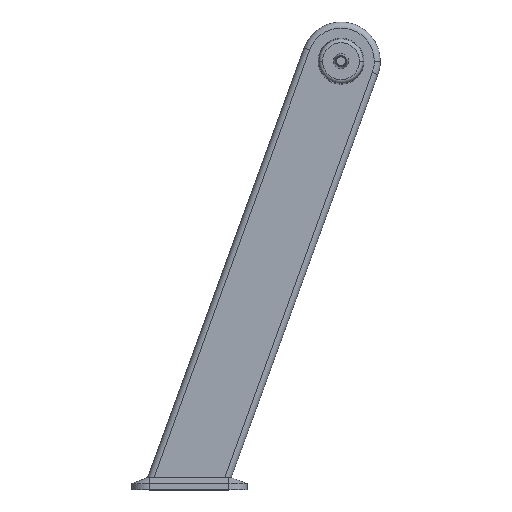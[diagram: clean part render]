
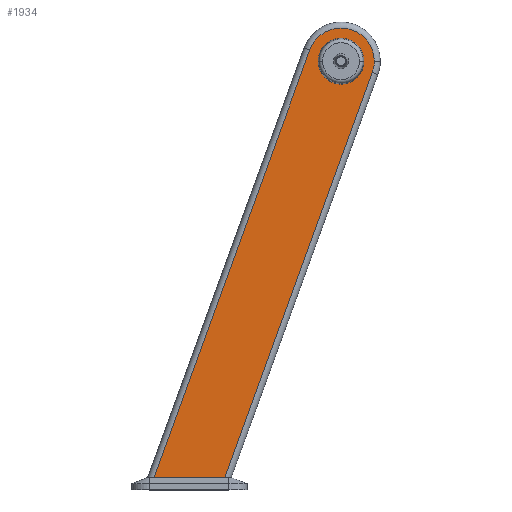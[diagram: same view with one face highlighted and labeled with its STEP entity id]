
A CAD part, top view. The second image highlights one B-rep face of the part: STEP entity #1934.
In plain terms, the highlighted planar face has unit normal (0, 0, 1).
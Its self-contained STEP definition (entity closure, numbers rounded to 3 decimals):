
#3 = EDGE_CURVE ( 'NONE', #2124, #1352, #2796, .T. ) ;
#69 = CARTESIAN_POINT ( 'NONE',  ( 55., 0., 31.25 ) ) ;
#82 = LINE ( 'NONE', #2859, #2751 ) ;
#186 = VERTEX_POINT ( 'NONE', #1408 ) ;
#193 = AXIS2_PLACEMENT_3D ( 'NONE', #2577, #1038, #2833 ) ;
#322 = AXIS2_PLACEMENT_3D ( 'NONE', #1528, #2046, #509 ) ;
#329 = DIRECTION ( 'NONE',  ( 0.342, 0.94, 0. ) ) ;
#353 = EDGE_LOOP ( 'NONE', ( #1282, #571, #2659, #3328, #3300 ) ) ;
#509 = DIRECTION ( 'NONE',  ( 1., 0., 0. ) ) ;
#571 = ORIENTED_EDGE ( 'NONE', *, *, #2390, .T. ) ;
#749 = EDGE_CURVE ( 'NONE', #2094, #186, #1300, .T. ) ;
#874 = ORIENTED_EDGE ( 'NONE', *, *, #749, .F. ) ;
#881 = AXIS2_PLACEMENT_3D ( 'NONE', #2825, #1281, #3084 ) ;
#1038 = DIRECTION ( 'NONE',  ( 0., 0., 1. ) ) ;
#1081 = AXIS2_PLACEMENT_3D ( 'NONE', #1657, #3338, #2342 ) ;
#1102 = CARTESIAN_POINT ( 'NONE',  ( -38., 0., 31.25 ) ) ;
#1107 = VERTEX_POINT ( 'NONE', #2906 ) ;
#1168 = DIRECTION ( 'NONE',  ( 0., 0., 1. ) ) ;
#1262 = CIRCLE ( 'NONE', #193, 55. ) ;
#1266 = VECTOR ( 'NONE', #1493, 1000. ) ;
#1271 = PLANE ( 'NONE',  #322 ) ;
#1281 = DIRECTION ( 'NONE',  ( 0., 0., 1. ) ) ;
#1282 = ORIENTED_EDGE ( 'NONE', *, *, #2524, .T. ) ;
#1300 = CIRCLE ( 'NONE', #881, 38. ) ;
#1352 = VERTEX_POINT ( 'NONE', #1958 ) ;
#1370 = ORIENTED_EDGE ( 'NONE', *, *, #1690, .F. ) ;
#1408 = CARTESIAN_POINT ( 'NONE',  ( 38., 0., 31.25 ) ) ;
#1458 = LINE ( 'NONE', #2396, #2755 ) ;
#1493 = DIRECTION ( 'NONE',  ( 1., 0., 0. ) ) ;
#1528 = CARTESIAN_POINT ( 'NONE',  ( 0., 0., 31.25 ) ) ;
#1657 = CARTESIAN_POINT ( 'NONE',  ( 0., 0., 31.25 ) ) ;
#1690 = EDGE_CURVE ( 'NONE', #186, #2094, #2602, .T. ) ;
#1776 = CARTESIAN_POINT ( 'NONE',  ( -309.669, -690., 31.25 ) ) ;
#1811 = VERTEX_POINT ( 'NONE', #2507 ) ;
#1852 = EDGE_CURVE ( 'NONE', #1924, #1107, #2718, .T. ) ;
#1924 = VERTEX_POINT ( 'NONE', #1776 ) ;
#1934 = ADVANCED_FACE ( 'NONE', ( #2476, #3076 ), #1271, .T. ) ;
#1958 = CARTESIAN_POINT ( 'NONE',  ( -51.683, 18.811, 31.25 ) ) ;
#2046 = DIRECTION ( 'NONE',  ( 0., 0., 1. ) ) ;
#2090 = DIRECTION ( 'NONE',  ( -0.342, -0.94, 0. ) ) ;
#2094 = VERTEX_POINT ( 'NONE', #1102 ) ;
#2124 = VERTEX_POINT ( 'NONE', #69 ) ;
#2342 = DIRECTION ( 'NONE',  ( 1., 0., 0. ) ) ;
#2390 = EDGE_CURVE ( 'NONE', #1811, #2124, #1262, .T. ) ;
#2396 = CARTESIAN_POINT ( 'NONE',  ( 51.683, -18.811, 31.25 ) ) ;
#2476 = FACE_OUTER_BOUND ( 'NONE', #353, .T. ) ;
#2507 = CARTESIAN_POINT ( 'NONE',  ( 51.683, -18.811, 31.25 ) ) ;
#2524 = EDGE_CURVE ( 'NONE', #1107, #1811, #1458, .T. ) ;
#2577 = CARTESIAN_POINT ( 'NONE',  ( 0., 0., 31.25 ) ) ;
#2602 = CIRCLE ( 'NONE', #2874, 38. ) ;
#2659 = ORIENTED_EDGE ( 'NONE', *, *, #3, .T. ) ;
#2710 = CARTESIAN_POINT ( 'NONE',  ( 0., 0., 31.25 ) ) ;
#2718 = LINE ( 'NONE', #3036, #1266 ) ;
#2751 = VECTOR ( 'NONE', #2090, 1000. ) ;
#2755 = VECTOR ( 'NONE', #329, 1000. ) ;
#2796 = CIRCLE ( 'NONE', #1081, 55. ) ;
#2825 = CARTESIAN_POINT ( 'NONE',  ( 0., 0., 31.25 ) ) ;
#2833 = DIRECTION ( 'NONE',  ( 1., 0., 0. ) ) ;
#2859 = CARTESIAN_POINT ( 'NONE',  ( -318.193, -713.42, 31.25 ) ) ;
#2874 = AXIS2_PLACEMENT_3D ( 'NONE', #2710, #1168, #2967 ) ;
#2888 = EDGE_LOOP ( 'NONE', ( #1370, #874 ) ) ;
#2906 = CARTESIAN_POINT ( 'NONE',  ( -192.61, -690., 31.25 ) ) ;
#2942 = EDGE_CURVE ( 'NONE', #1352, #1924, #82, .T. ) ;
#2967 = DIRECTION ( 'NONE',  ( 1., 0., 0. ) ) ;
#3036 = CARTESIAN_POINT ( 'NONE',  ( 0., -690., 31.25 ) ) ;
#3076 = FACE_BOUND ( 'NONE', #2888, .T. ) ;
#3084 = DIRECTION ( 'NONE',  ( 1., 0., 0. ) ) ;
#3300 = ORIENTED_EDGE ( 'NONE', *, *, #1852, .T. ) ;
#3328 = ORIENTED_EDGE ( 'NONE', *, *, #2942, .T. ) ;
#3338 = DIRECTION ( 'NONE',  ( 0., 0., 1. ) ) ;
